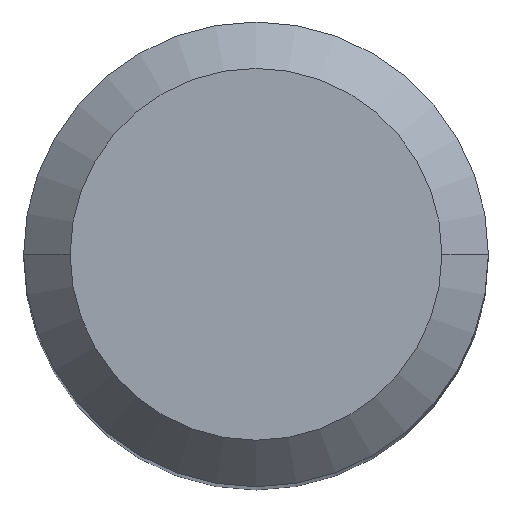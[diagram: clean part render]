
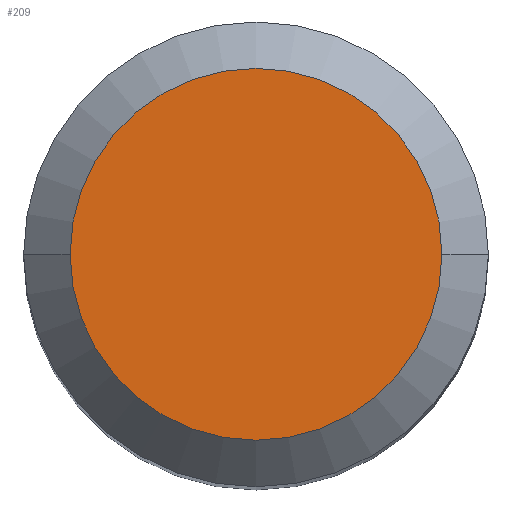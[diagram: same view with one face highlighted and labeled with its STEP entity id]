
A CAD part, top view. The second image highlights one B-rep face of the part: STEP entity #209.
In plain terms, the highlighted planar face has unit normal (0, 0, 1).
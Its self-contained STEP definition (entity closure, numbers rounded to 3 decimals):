
#65 = CARTESIAN_POINT ( 'NONE',  ( 0., 0., 0. ) ) ;
#88 = CIRCLE ( 'NONE', #347, 4. ) ;
#125 = AXIS2_PLACEMENT_3D ( 'NONE', #245, #539, #288 ) ;
#130 = CARTESIAN_POINT ( 'NONE',  ( 0., 0., 0. ) ) ;
#145 = EDGE_CURVE ( 'NONE', #338, #414, #88, .T. ) ;
#151 = PLANE ( 'NONE',  #125 ) ;
#185 = DIRECTION ( 'NONE',  ( -1., 0., 0. ) ) ;
#205 = DIRECTION ( 'NONE',  ( 0., 0., -1. ) ) ;
#209 = ADVANCED_FACE ( 'NONE', ( #278 ), #151, .T. ) ;
#213 = ORIENTED_EDGE ( 'NONE', *, *, #145, .F. ) ;
#245 = CARTESIAN_POINT ( 'NONE',  ( 0., 4., 0. ) ) ;
#278 = FACE_OUTER_BOUND ( 'NONE', #564, .T. ) ;
#288 = DIRECTION ( 'NONE',  ( 1., 0., 0. ) ) ;
#297 = ORIENTED_EDGE ( 'NONE', *, *, #317, .F. ) ;
#307 = AXIS2_PLACEMENT_3D ( 'NONE', #65, #205, #476 ) ;
#317 = EDGE_CURVE ( 'NONE', #414, #338, #425, .T. ) ;
#338 = VERTEX_POINT ( 'NONE', #434 ) ;
#347 = AXIS2_PLACEMENT_3D ( 'NONE', #130, #411, #185 ) ;
#411 = DIRECTION ( 'NONE',  ( 0., 0., -1. ) ) ;
#414 = VERTEX_POINT ( 'NONE', #464 ) ;
#425 = CIRCLE ( 'NONE', #307, 4. ) ;
#434 = CARTESIAN_POINT ( 'NONE',  ( 4., 0., 0. ) ) ;
#464 = CARTESIAN_POINT ( 'NONE',  ( -4., 0., 0. ) ) ;
#476 = DIRECTION ( 'NONE',  ( -1., 0., 0. ) ) ;
#539 = DIRECTION ( 'NONE',  ( 0., 0., 1. ) ) ;
#564 = EDGE_LOOP ( 'NONE', ( #297, #213 ) ) ;
